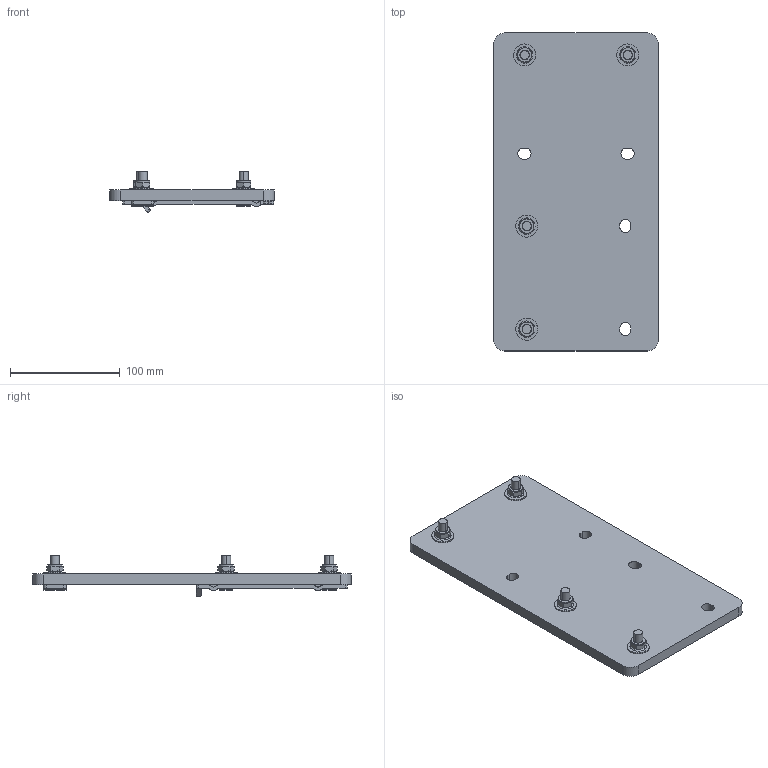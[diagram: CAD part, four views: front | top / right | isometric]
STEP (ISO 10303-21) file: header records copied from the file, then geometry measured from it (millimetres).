
FILE_DESCRIPTION (( 'STEP AP214' ), '1' );
FILE_NAME ('04607.STEP', '2014-04-14T07:23:32', ( '' ), ( '' ), 'SwSTEP 2.0', 'SolidWorks 2014', '' );
FILE_SCHEMA (( 'AUTOMOTIVE_DESIGN' ));
Length unit declared in the file: millimetre
Products named in the file (8): 04607; s1b3527601_3_2; S1B3527301; s1b1659401_4_2; S1A9178201; S1B1674701; 469740304; s1a8628501_5_2
Assembly tree (13 placements, depth 3):
  04607
    s1a8628501_5_2
    469740304  x4
    s1b1659401_4_2
      S1B1674701
      S1A9178201  x2
    s1b3527601_3_2
      S1B3527301
      S1A9178201  x2
Bounding box: 150 x 290 x 37.78 mm (x, y, z)
Volume: 449148.2 mm3; surface area: 119165.4 mm2
Topology: 7 solids, 15 shells, 367 faces, 945 edges, 616 vertices
Faces by surface type: bspline 200, plane 119, cylinder 48
Entity records: 14406 total; most frequent: CARTESIAN_POINT 9445, ORIENTED_EDGE 1190, EDGE_CURVE 597, DIRECTION 568, VERTEX_POINT 394, B_SPLINE_CURVE_WITH_KNOTS 339, EDGE_LOOP 251, FACE_OUTER_BOUND 217
